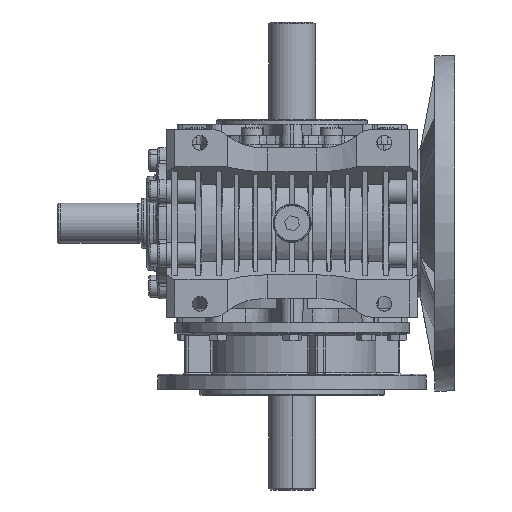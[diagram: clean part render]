
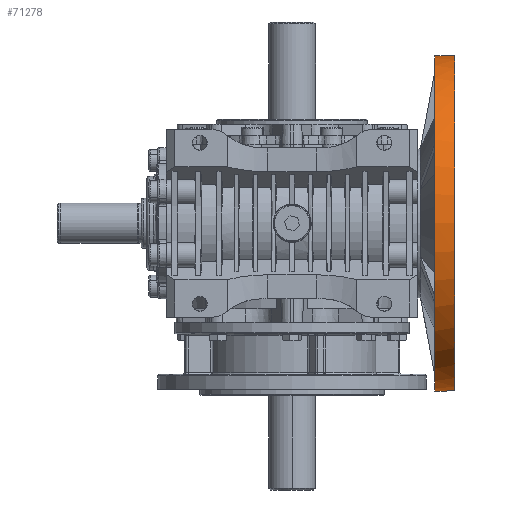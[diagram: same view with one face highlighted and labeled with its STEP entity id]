
A CAD part, front view. The second image highlights one B-rep face of the part: STEP entity #71278.
In plain terms, the highlighted cylindrical face has radius 100 mm (diameter 200 mm), a partial arc.
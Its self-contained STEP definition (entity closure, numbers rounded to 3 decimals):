
#646 = LINE ( 'NONE', #50218, #78667 ) ;
#2386 = ORIENTED_EDGE ( 'NONE', *, *, #100422, .T. ) ;
#4193 = ORIENTED_EDGE ( 'NONE', *, *, #118292, .T. ) ;
#4831 = CARTESIAN_POINT ( 'NONE',  ( 85., -63., 0. ) ) ;
#4946 = CIRCLE ( 'NONE', #95837, 100. ) ;
#9874 = ORIENTED_EDGE ( 'NONE', *, *, #46123, .F. ) ;
#11454 = CARTESIAN_POINT ( 'NONE',  ( 92., -63., -100. ) ) ;
#11952 = DIRECTION ( 'NONE',  ( 1., 0., 0. ) ) ;
#12288 = CARTESIAN_POINT ( 'NONE',  ( 92., -69., -99.82 ) ) ;
#13649 = EDGE_CURVE ( 'NONE', #105789, #65557, #646, .T. ) ;
#14091 = DIRECTION ( 'NONE',  ( 0., 0., -1. ) ) ;
#16441 = AXIS2_PLACEMENT_3D ( 'NONE', #33863, #104701, #126556 ) ;
#16972 = AXIS2_PLACEMENT_3D ( 'NONE', #4831, #26587, #14091 ) ;
#19302 = CARTESIAN_POINT ( 'NONE',  ( 187.177, -69., -99.82 ) ) ;
#21545 = CARTESIAN_POINT ( 'NONE',  ( 92., -63., 100. ) ) ;
#21764 = EDGE_CURVE ( 'NONE', #44592, #43051, #76570, .T. ) ;
#22779 = CARTESIAN_POINT ( 'NONE',  ( 92., -63., 0. ) ) ;
#22796 = ORIENTED_EDGE ( 'NONE', *, *, #21764, .T. ) ;
#24552 = VECTOR ( 'NONE', #39712, 1000. ) ;
#26252 = CARTESIAN_POINT ( 'NONE',  ( 187.177, -63., -100. ) ) ;
#26587 = DIRECTION ( 'NONE',  ( 1., 0., 0. ) ) ;
#27307 = CARTESIAN_POINT ( 'NONE',  ( 187.177, -63., 0. ) ) ;
#33863 = CARTESIAN_POINT ( 'NONE',  ( 97., -63., 0. ) ) ;
#34348 = CARTESIAN_POINT ( 'NONE',  ( 92., -63., 0. ) ) ;
#37247 = FACE_OUTER_BOUND ( 'NONE', #105113, .T. ) ;
#39712 = DIRECTION ( 'NONE',  ( 1., 0., 0. ) ) ;
#42958 = DIRECTION ( 'NONE',  ( -1., 0., 0. ) ) ;
#43051 = VERTEX_POINT ( 'NONE', #11454 ) ;
#44592 = VERTEX_POINT ( 'NONE', #101085 ) ;
#46123 = EDGE_CURVE ( 'NONE', #65557, #62186, #4946, .T. ) ;
#47181 = DIRECTION ( 'NONE',  ( 1., 0., 0. ) ) ;
#48425 = LINE ( 'NONE', #19302, #104739 ) ;
#50218 = CARTESIAN_POINT ( 'NONE',  ( 187.177, -63., 100. ) ) ;
#60395 = ORIENTED_EDGE ( 'NONE', *, *, #119529, .F. ) ;
#61192 = DIRECTION ( 'NONE',  ( 0., 0., -1. ) ) ;
#62186 = VERTEX_POINT ( 'NONE', #89602 ) ;
#65557 = VERTEX_POINT ( 'NONE', #21545 ) ;
#65559 = VERTEX_POINT ( 'NONE', #12288 ) ;
#65958 = VERTEX_POINT ( 'NONE', #118765 ) ;
#71278 = ADVANCED_FACE ( 'NONE', ( #37247 ), #118025, .T. ) ;
#75950 = ORIENTED_EDGE ( 'NONE', *, *, #13649, .F. ) ;
#76570 = LINE ( 'NONE', #26252, #104373 ) ;
#77906 = VERTEX_POINT ( 'NONE', #94969 ) ;
#78667 = VECTOR ( 'NONE', #90648, 1000. ) ;
#84009 = DIRECTION ( 'NONE',  ( 0., 0., 1. ) ) ;
#84570 = ORIENTED_EDGE ( 'NONE', *, *, #101603, .F. ) ;
#85619 = DIRECTION ( 'NONE',  ( 0., 0., -1. ) ) ;
#89602 = CARTESIAN_POINT ( 'NONE',  ( 92., -69., 99.82 ) ) ;
#90648 = DIRECTION ( 'NONE',  ( 1., 0., 0. ) ) ;
#92263 = AXIS2_PLACEMENT_3D ( 'NONE', #34348, #42958, #84009 ) ;
#94969 = CARTESIAN_POINT ( 'NONE',  ( 97., -69., -99.82 ) ) ;
#95837 = AXIS2_PLACEMENT_3D ( 'NONE', #22779, #111547, #61192 ) ;
#100068 = DIRECTION ( 'NONE',  ( -1., 0., 0. ) ) ;
#100358 = EDGE_CURVE ( 'NONE', #62186, #65958, #112523, .T. ) ;
#100422 = EDGE_CURVE ( 'NONE', #43051, #65559, #115493, .T. ) ;
#101085 = CARTESIAN_POINT ( 'NONE',  ( 85., -63., -100. ) ) ;
#101557 = CIRCLE ( 'NONE', #16972, 100. ) ;
#101603 = EDGE_CURVE ( 'NONE', #65958, #77906, #126375, .T. ) ;
#104373 = VECTOR ( 'NONE', #11952, 1000. ) ;
#104701 = DIRECTION ( 'NONE',  ( 1., 0., 0. ) ) ;
#104739 = VECTOR ( 'NONE', #100068, 1000. ) ;
#105113 = EDGE_LOOP ( 'NONE', ( #75950, #4193, #22796, #2386, #60395, #84570, #123688, #9874 ) ) ;
#105789 = VERTEX_POINT ( 'NONE', #130801 ) ;
#111547 = DIRECTION ( 'NONE',  ( 1., 0., 0. ) ) ;
#112523 = LINE ( 'NONE', #120483, #24552 ) ;
#115493 = CIRCLE ( 'NONE', #92263, 100. ) ;
#118025 = CYLINDRICAL_SURFACE ( 'NONE', #124442, 100. ) ;
#118292 = EDGE_CURVE ( 'NONE', #105789, #44592, #101557, .T. ) ;
#118765 = CARTESIAN_POINT ( 'NONE',  ( 97., -69., 99.82 ) ) ;
#119529 = EDGE_CURVE ( 'NONE', #77906, #65559, #48425, .T. ) ;
#120483 = CARTESIAN_POINT ( 'NONE',  ( 187.177, -69., 99.82 ) ) ;
#123688 = ORIENTED_EDGE ( 'NONE', *, *, #100358, .F. ) ;
#124442 = AXIS2_PLACEMENT_3D ( 'NONE', #27307, #47181, #85619 ) ;
#126375 = CIRCLE ( 'NONE', #16441, 100. ) ;
#126556 = DIRECTION ( 'NONE',  ( 0., 0., -1. ) ) ;
#130801 = CARTESIAN_POINT ( 'NONE',  ( 85., -63., 100. ) ) ;
